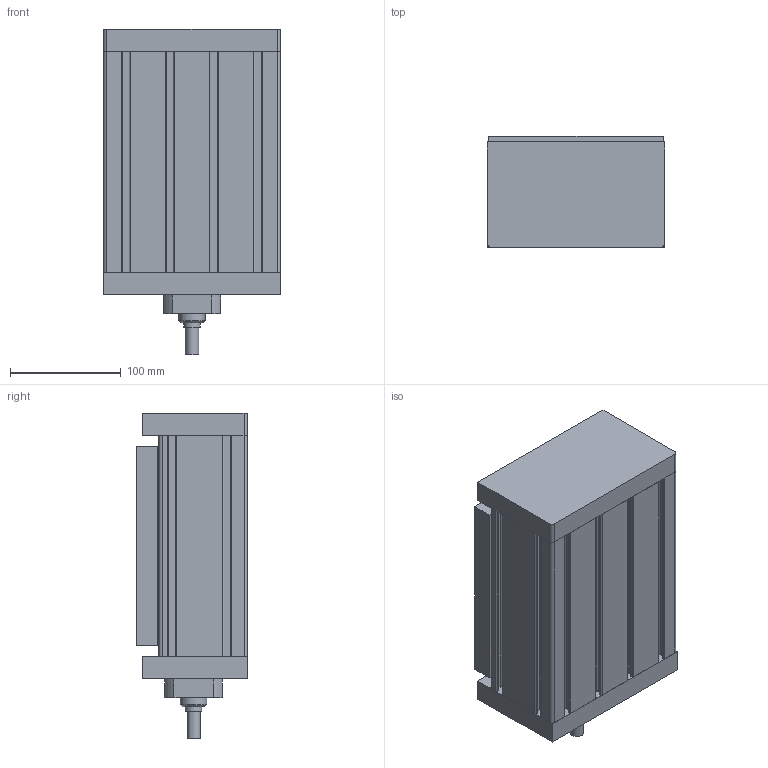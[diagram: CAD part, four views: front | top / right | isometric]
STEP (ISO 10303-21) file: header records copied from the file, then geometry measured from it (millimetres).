
FILE_DESCRIPTION((''),'2;1');
FILE_NAME('C:\Users\disegnatore3\Desktop\alberto_3d\MODELLI PER SITO WEB\ASSI\ML160\ML160 PROV-22\FORMATO CAD\ML160PROV-22.stp','2016-09-12T14:25:54',('disegnatore3'),(''),'Autodesk Inventor 2012','Autodesk Inventor 2012','');
FILE_SCHEMA(('AUTOMOTIVE_DESIGN { 1 0 10303 214 1 1 1 1 }'));
Length unit declared in the file: millimetre
Products named in the file (5): ML160PROV-22; PR160PRO; CR160PRO-22; TR160PROV; TM160PROV
Assembly tree (4 placements, depth 2):
  ML160PROV-22
    PR160PRO
    CR160PRO-22
    TR160PROV
    TM160PROV
Bounding box: 160 x 100 x 294.1 mm (x, y, z)
Volume: 3607762.8 mm3; surface area: 320275.8 mm2
Topology: 4 solids, 4 shells, 162 faces, 457 edges, 307 vertices
Faces by surface type: plane 96, cylinder 65, cone 1
Full cylindrical faces by diameter (mm): 6.647 x8, 12 x1, 15 x1, 24 x1
Entity records: 5327 total; most frequent: DIRECTION 910, CARTESIAN_POINT 907, ORIENTED_EDGE 874, EDGE_CURVE 437, VECTOR 306, LINE 306, AXIS2_PLACEMENT_3D 302, VERTEX_POINT 299
